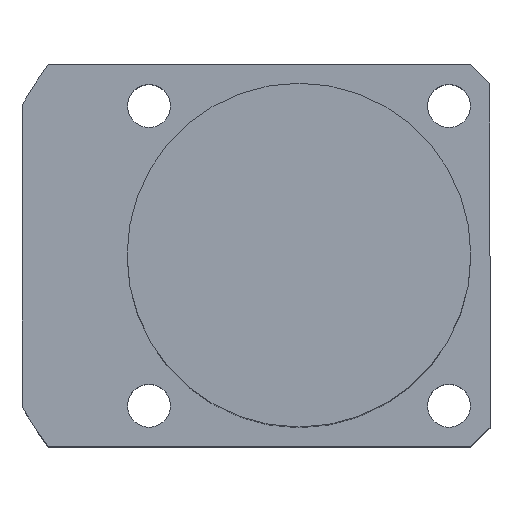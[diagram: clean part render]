
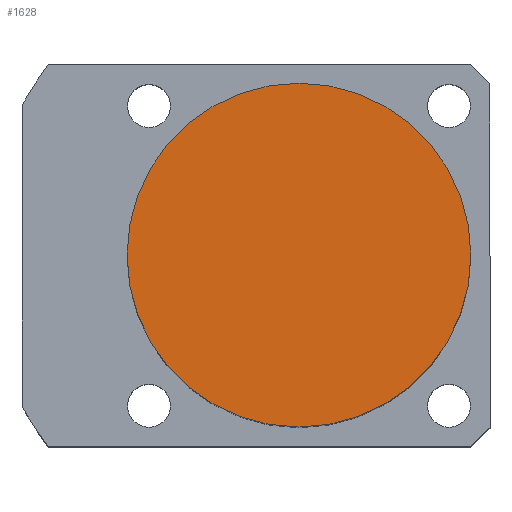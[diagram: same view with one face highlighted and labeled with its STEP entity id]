
A CAD part, top view. The second image highlights one B-rep face of the part: STEP entity #1628.
In plain terms, the highlighted planar face has unit normal (0, 0, 1).
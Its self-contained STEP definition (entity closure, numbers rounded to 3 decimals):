
#18 = AXIS2_PLACEMENT_3D ( 'NONE', #225, #1727, #655 ) ;
#66 = PLANE ( 'NONE',  #18 ) ;
#225 = CARTESIAN_POINT ( 'NONE',  ( 0., 0., 53.5 ) ) ;
#367 = EDGE_CURVE ( 'NONE', #1708, #1256, #563, .T. ) ;
#563 = CIRCLE ( 'NONE', #633, 18. ) ;
#633 = AXIS2_PLACEMENT_3D ( 'NONE', #696, #831, #1387 ) ;
#655 = DIRECTION ( 'NONE',  ( 1., 0., 0. ) ) ;
#696 = CARTESIAN_POINT ( 'NONE',  ( 0., 0., 53.5 ) ) ;
#713 = AXIS2_PLACEMENT_3D ( 'NONE', #1457, #1334, #1753 ) ;
#745 = ORIENTED_EDGE ( 'NONE', *, *, #367, .T. ) ;
#755 = CARTESIAN_POINT ( 'NONE',  ( -18., 0., 53.5 ) ) ;
#770 = EDGE_CURVE ( 'NONE', #1256, #1708, #1099, .T. ) ;
#831 = DIRECTION ( 'NONE',  ( 0., 0., 1. ) ) ;
#878 = FACE_OUTER_BOUND ( 'NONE', #1042, .T. ) ;
#1042 = EDGE_LOOP ( 'NONE', ( #1134, #745 ) ) ;
#1099 = CIRCLE ( 'NONE', #713, 18. ) ;
#1134 = ORIENTED_EDGE ( 'NONE', *, *, #770, .T. ) ;
#1256 = VERTEX_POINT ( 'NONE', #755 ) ;
#1334 = DIRECTION ( 'NONE',  ( 0., 0., 1. ) ) ;
#1387 = DIRECTION ( 'NONE',  ( 1., 0., 0. ) ) ;
#1457 = CARTESIAN_POINT ( 'NONE',  ( 0., 0., 53.5 ) ) ;
#1628 = ADVANCED_FACE ( 'NONE', ( #878 ), #66, .T. ) ;
#1708 = VERTEX_POINT ( 'NONE', #1720 ) ;
#1720 = CARTESIAN_POINT ( 'NONE',  ( 18., 0., 53.5 ) ) ;
#1727 = DIRECTION ( 'NONE',  ( 0., 0., 1. ) ) ;
#1753 = DIRECTION ( 'NONE',  ( 1., 0., 0. ) ) ;
